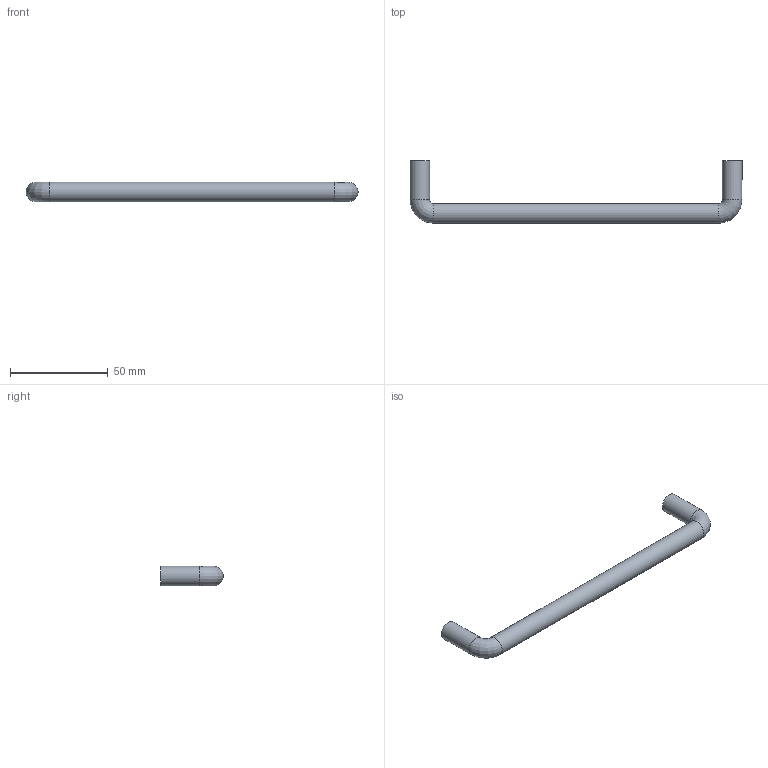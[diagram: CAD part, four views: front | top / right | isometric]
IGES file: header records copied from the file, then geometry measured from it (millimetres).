
Start section: Data from Parasolid IGES Translator 15.0.47, Copyright(c) 2006 Siemens P LM Software. All Rights Reserved.
Global section: file name: 9070552.igs; native system:  By UGS Corp.; preprocessor: XPlus GENERIC/IGES 3.0; author: Noname; organization: Noname; date: 20140122.154417; units: millimetre
Bounding box: 170 x 32 x 10 mm (x, y, z)
Surface area: 6867.2 mm2 (no closed solid volume)
Topology: 0 solids, 0 shells, 11 faces, 42 edges, 38 vertices
Faces by surface type: revolution 7, extrusion 4
